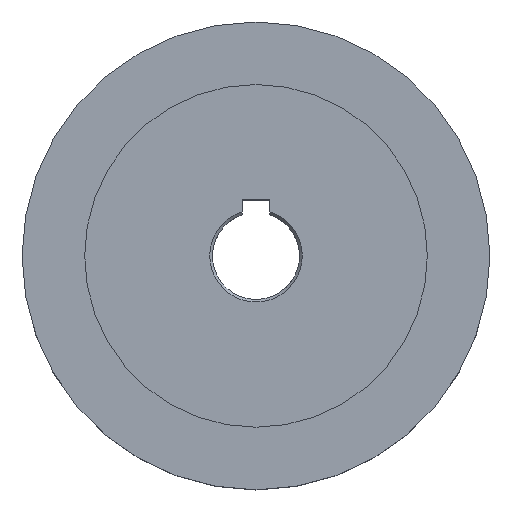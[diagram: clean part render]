
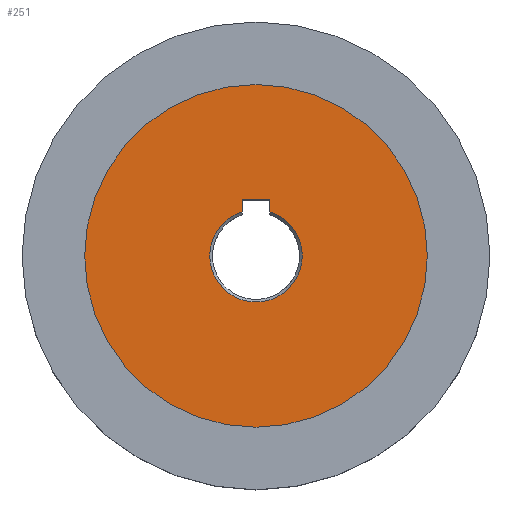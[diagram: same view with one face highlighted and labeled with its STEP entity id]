
A CAD part, top view. The second image highlights one B-rep face of the part: STEP entity #251.
In plain terms, the highlighted planar face has unit normal (0, 0, 1).
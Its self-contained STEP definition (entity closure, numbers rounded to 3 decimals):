
#251=ADVANCED_FACE('',(#3167,#3169),#3171,.T.);
#3167=FACE_BOUND('',#3168,.T.);
#3168=EDGE_LOOP('',(#6035));
#3169=FACE_BOUND('',#3170,.T.);
#3170=EDGE_LOOP('',(#6036,#6037,#6038,#6039));
#3171=PLANE('',#3172);
#3172=AXIS2_PLACEMENT_3D('',#3173,#3174,#3175);
#3173=CARTESIAN_POINT('',(0.,0.,11.));
#3174=DIRECTION('',(0.,0.,1.));
#3175=DIRECTION('',(1.,0.,0.));
#6035=ORIENTED_EDGE('',*,*,#7905,.T.);
#6036=ORIENTED_EDGE('',*,*,#7303,.T.);
#6037=ORIENTED_EDGE('',*,*,#7314,.T.);
#6038=ORIENTED_EDGE('',*,*,#7906,.T.);
#6039=ORIENTED_EDGE('',*,*,#7306,.T.);
#7303=EDGE_CURVE('',#8299,#8300,#8301,.T.);
#7306=EDGE_CURVE('',#8304,#8299,#8305,.F.);
#7314=EDGE_CURVE('',#8300,#8316,#8318,.F.);
#7905=EDGE_CURVE('',#9495,#9495,#9496,.T.);
#7906=EDGE_CURVE('',#8316,#8304,#9497,.F.);
#8299=VERTEX_POINT('',#10458);
#8300=VERTEX_POINT('',#10459);
#8301=CIRCLE('',#10460,8.5);
#8304=VERTEX_POINT('',#10476);
#8305=LINE('',#10477,#10478);
#8316=VERTEX_POINT('',#10509);
#8318=LINE('',#10513,#10514);
#9495=VERTEX_POINT('',#13264);
#9496=CIRCLE('',#13265,31.5);
#9497=LINE('',#13269,#13270);
#10458=CARTESIAN_POINT('',(2.5,8.124,11.));
#10459=CARTESIAN_POINT('',(-2.5,8.124,11.));
#10460=AXIS2_PLACEMENT_3D('',#10461,#10462,#10463);
#10461=CARTESIAN_POINT('',(0.,0.,11.));
#10462=DIRECTION('',(0.,0.,-1.));
#10463=DIRECTION('',(0.294,0.956,0.));
#10476=CARTESIAN_POINT('',(2.5,10.3,11.));
#10477=CARTESIAN_POINT('',(2.5,8.124,11.));
#10478=VECTOR('',#10479,1.);
#10479=DIRECTION('',(0.,1.,0.));
#10509=CARTESIAN_POINT('',(-2.5,10.3,11.));
#10513=CARTESIAN_POINT('',(-2.5,10.3,11.));
#10514=VECTOR('',#10515,1.);
#10515=DIRECTION('',(0.,-1.,0.));
#13264=CARTESIAN_POINT('',(31.5,0.,11.));
#13265=AXIS2_PLACEMENT_3D('',#13266,#13267,#13268);
#13266=CARTESIAN_POINT('',(0.,0.,11.));
#13267=DIRECTION('',(0.,0.,1.));
#13268=DIRECTION('',(1.,0.,0.));
#13269=CARTESIAN_POINT('',(2.5,10.3,11.));
#13270=VECTOR('',#13271,1.);
#13271=DIRECTION('',(-1.,0.,0.));
